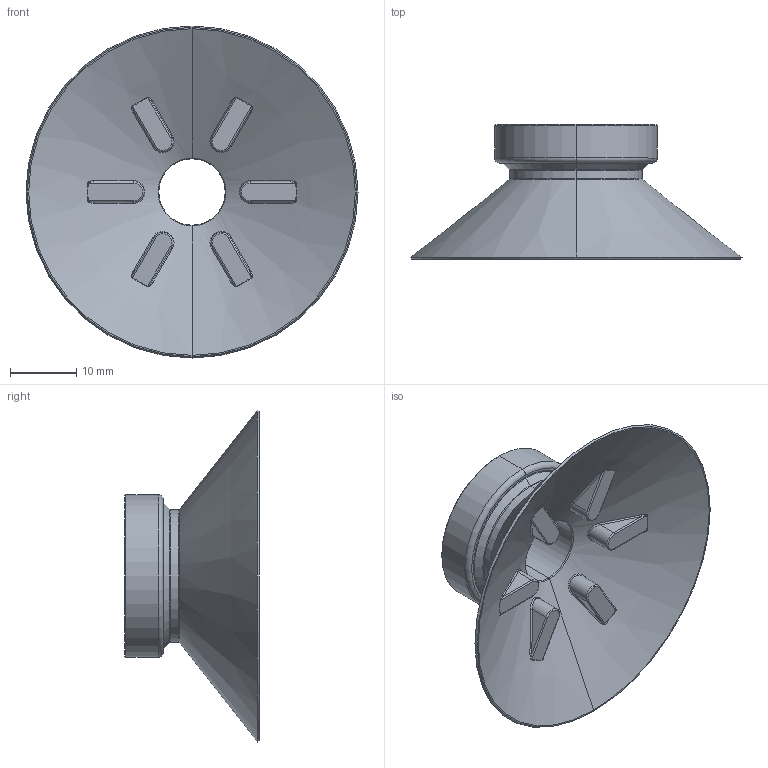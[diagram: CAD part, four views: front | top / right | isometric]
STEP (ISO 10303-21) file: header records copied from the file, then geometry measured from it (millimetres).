
FILE_DESCRIPTION (( 'STEP AP203' ), '1' );
FILE_NAME ('73_50--A.STEP', '2016-10-20T07:59:13', ( '' ), ( '' ), 'SwSTEP 2.0', 'SolidWorks 2016', '' );
FILE_SCHEMA (( 'CONFIG_CONTROL_DESIGN' ));
Length unit declared in the file: millimetre
Products named in the file (1): 73_50--A
Bounding box: 50 x 20.3 x 50 mm (x, y, z)
Volume: 8091.8 mm3; surface area: 5834.6 mm2
Topology: 1 solids, 1 shells, 111 faces, 238 edges, 136 vertices
Faces by surface type: bspline 30, cylinder 26, torus 24, plane 21, cone 10
Entity records: 4221 total; most frequent: CARTESIAN_POINT 1900, ORIENTED_EDGE 476, DIRECTION 462, EDGE_CURVE 238, AXIS2_PLACEMENT_3D 204, VERTEX_POINT 136, CIRCLE 122, EDGE_LOOP 120
